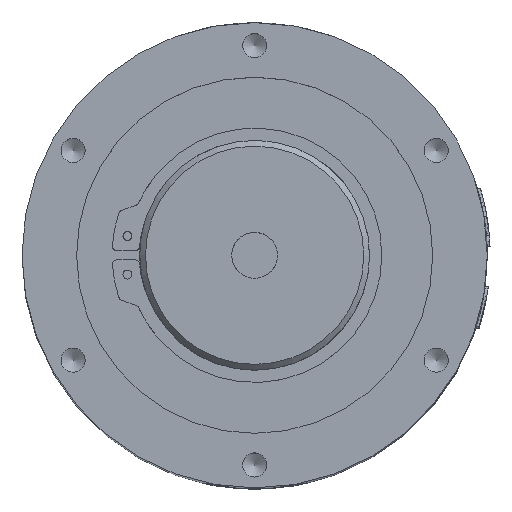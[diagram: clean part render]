
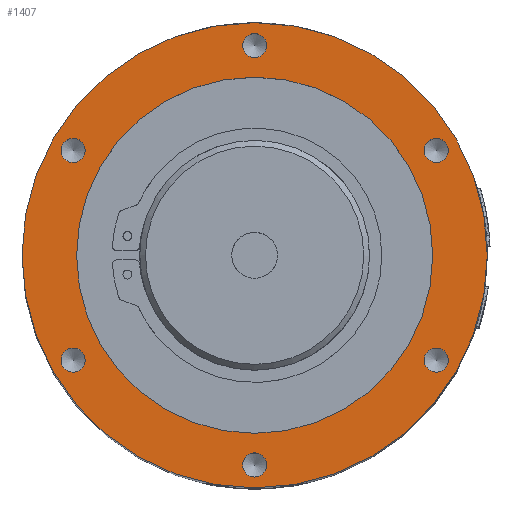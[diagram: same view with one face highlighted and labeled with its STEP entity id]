
A CAD part, top view. The second image highlights one B-rep face of the part: STEP entity #1407.
In plain terms, the highlighted planar face has unit normal (0, 0, 1).
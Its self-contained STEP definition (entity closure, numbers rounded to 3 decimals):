
#309=FACE_BOUND('',#2651,.T.);
#310=FACE_BOUND('',#2652,.T.);
#311=FACE_BOUND('',#2653,.T.);
#312=FACE_BOUND('',#2654,.T.);
#313=FACE_BOUND('',#2655,.T.);
#314=FACE_BOUND('',#2656,.T.);
#315=FACE_BOUND('',#2657,.T.);
#316=FACE_BOUND('',#2658,.T.);
#486=CIRCLE('',#7661,40.5);
#547=CIRCLE('',#7771,2.1);
#548=CIRCLE('',#7772,2.1);
#549=CIRCLE('',#7773,2.1);
#550=CIRCLE('',#7774,2.1);
#551=CIRCLE('',#7775,2.1);
#552=CIRCLE('',#7776,2.1);
#553=CIRCLE('',#7777,31.);
#905=PLANE('',#7778);
#1407=ADVANCED_FACE('',(#309,#310,#311,#312,#313,#314,#315,#316),#905,.T.);
#2651=EDGE_LOOP('',(#4255));
#2652=EDGE_LOOP('',(#4256));
#2653=EDGE_LOOP('',(#4257));
#2654=EDGE_LOOP('',(#4258));
#2655=EDGE_LOOP('',(#4259));
#2656=EDGE_LOOP('',(#4260));
#2657=EDGE_LOOP('',(#4261));
#2658=EDGE_LOOP('',(#4262));
#4255=ORIENTED_EDGE('',*,*,#6478,.T.);
#4256=ORIENTED_EDGE('',*,*,#6479,.T.);
#4257=ORIENTED_EDGE('',*,*,#6480,.T.);
#4258=ORIENTED_EDGE('',*,*,#6481,.T.);
#4259=ORIENTED_EDGE('',*,*,#6482,.T.);
#4260=ORIENTED_EDGE('',*,*,#6483,.T.);
#4261=ORIENTED_EDGE('',*,*,#6484,.T.);
#4262=ORIENTED_EDGE('',*,*,#6401,.F.);
#5428=VERTEX_POINT('',#28318);
#5501=VERTEX_POINT('',#28631);
#5502=VERTEX_POINT('',#28633);
#5503=VERTEX_POINT('',#28635);
#5504=VERTEX_POINT('',#28637);
#5505=VERTEX_POINT('',#28639);
#5506=VERTEX_POINT('',#28641);
#5507=VERTEX_POINT('',#28643);
#6401=EDGE_CURVE('',#5428,#5428,#486,.T.);
#6478=EDGE_CURVE('',#5501,#5501,#547,.T.);
#6479=EDGE_CURVE('',#5502,#5502,#548,.T.);
#6480=EDGE_CURVE('',#5503,#5503,#549,.T.);
#6481=EDGE_CURVE('',#5504,#5504,#550,.T.);
#6482=EDGE_CURVE('',#5505,#5505,#551,.T.);
#6483=EDGE_CURVE('',#5506,#5506,#552,.T.);
#6484=EDGE_CURVE('',#5507,#5507,#553,.T.);
#7661=AXIS2_PLACEMENT_3D('',#28317,#8733,#8734);
#7771=AXIS2_PLACEMENT_3D('',#28630,#8967,#8968);
#7772=AXIS2_PLACEMENT_3D('',#28632,#8969,#8970);
#7773=AXIS2_PLACEMENT_3D('',#28634,#8971,#8972);
#7774=AXIS2_PLACEMENT_3D('',#28636,#8973,#8974);
#7775=AXIS2_PLACEMENT_3D('',#28638,#8975,#8976);
#7776=AXIS2_PLACEMENT_3D('',#28640,#8977,#8978);
#7777=AXIS2_PLACEMENT_3D('',#28642,#8979,#8980);
#7778=AXIS2_PLACEMENT_3D('',#28644,#8981,#8982);
#8733=DIRECTION('',(0.,0.,-1.));
#8734=DIRECTION('',(1.,0.,0.));
#8967=DIRECTION('',(0.,0.,-1.));
#8968=DIRECTION('',(-0.5,-0.866,0.));
#8969=DIRECTION('',(0.,0.,-1.));
#8970=DIRECTION('',(0.5,-0.866,0.));
#8971=DIRECTION('',(0.,0.,-1.));
#8972=DIRECTION('',(1.,0.,0.));
#8973=DIRECTION('',(0.,0.,-1.));
#8974=DIRECTION('',(0.5,0.866,0.));
#8975=DIRECTION('',(0.,0.,-1.));
#8976=DIRECTION('',(-0.5,0.866,0.));
#8977=DIRECTION('',(0.,0.,-1.));
#8978=DIRECTION('',(-1.,0.,0.));
#8979=DIRECTION('',(0.,0.,-1.));
#8980=DIRECTION('',(1.,0.,0.));
#8981=DIRECTION('',(0.,0.,1.));
#8982=DIRECTION('',(-1.,0.,0.));
#28317=CARTESIAN_POINT('',(0.,0.,147.));
#28318=CARTESIAN_POINT('',(40.5,0.,147.));
#28630=CARTESIAN_POINT('',(-31.61,18.25,147.));
#28631=CARTESIAN_POINT('',(-32.66,16.431,147.));
#28632=CARTESIAN_POINT('',(-31.61,-18.25,147.));
#28633=CARTESIAN_POINT('',(-30.56,-20.069,147.));
#28634=CARTESIAN_POINT('',(0.,-36.5,147.));
#28635=CARTESIAN_POINT('',(2.1,-36.5,147.));
#28636=CARTESIAN_POINT('',(31.61,-18.25,147.));
#28637=CARTESIAN_POINT('',(32.66,-16.431,147.));
#28638=CARTESIAN_POINT('',(31.61,18.25,147.));
#28639=CARTESIAN_POINT('',(30.56,20.069,147.));
#28640=CARTESIAN_POINT('',(0.,36.5,147.));
#28641=CARTESIAN_POINT('',(-2.1,36.5,147.));
#28642=CARTESIAN_POINT('',(0.,0.,147.));
#28643=CARTESIAN_POINT('',(31.,0.,147.));
#28644=CARTESIAN_POINT('',(0.,0.,147.));
